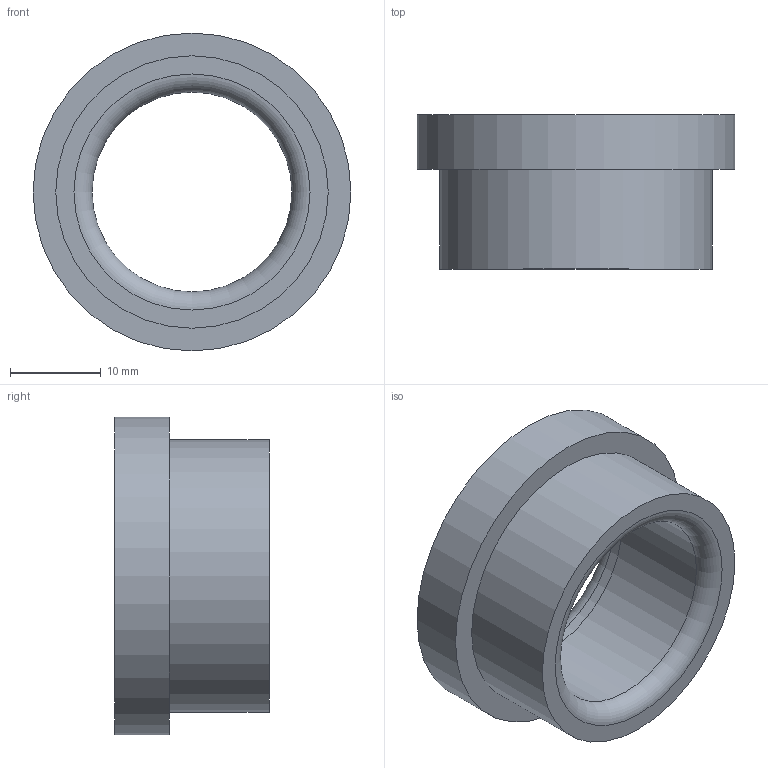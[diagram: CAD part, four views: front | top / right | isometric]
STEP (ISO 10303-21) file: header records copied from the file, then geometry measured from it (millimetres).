
FILE_DESCRIPTION(/* description */ ('STEP AP214'),/* implementation_level */ '2;1');
FILE_NAME(/* name */ '03_12_17926',/* time_stamp */ '2023-06-15T11:35:32+02:00',/* author */ ('License CC BY-ND 4.0'),/* organization */ ('CADENAS'),/* preprocessor_version */ 'ST-DEVELOPER v19.3',/* originating_system */ 'PARTsolutions',/* authorisation */ ' ');
FILE_SCHEMA (('AUTOMOTIVE_DESIGN {1 0 10303 214 3 1 1}'));
Length unit declared in the file: millimetre
Products named in the file (1): VA_Bushing_17926
Bounding box: 35 x 17 x 35 mm (x, y, z)
Volume: 6889.3 mm3; surface area: 3925.1 mm2
Topology: 1 solids, 1 shells, 10 faces, 16 edges, 10 vertices
Faces by surface type: cylinder 4, plane 4, torus 2
Full cylindrical faces by diameter (mm): 22 x1, 22.6 x1, 30 x1, 35 x1
Entity records: 302 total; most frequent: DIRECTION 42, CARTESIAN_POINT 31, AXIS2_PLACEMENT_3D 21, ORIENTED_EDGE 20, EDGE_LOOP 20, FACE_BOUND 20, EDGE_CURVE 10, VERTEX_POINT 10
